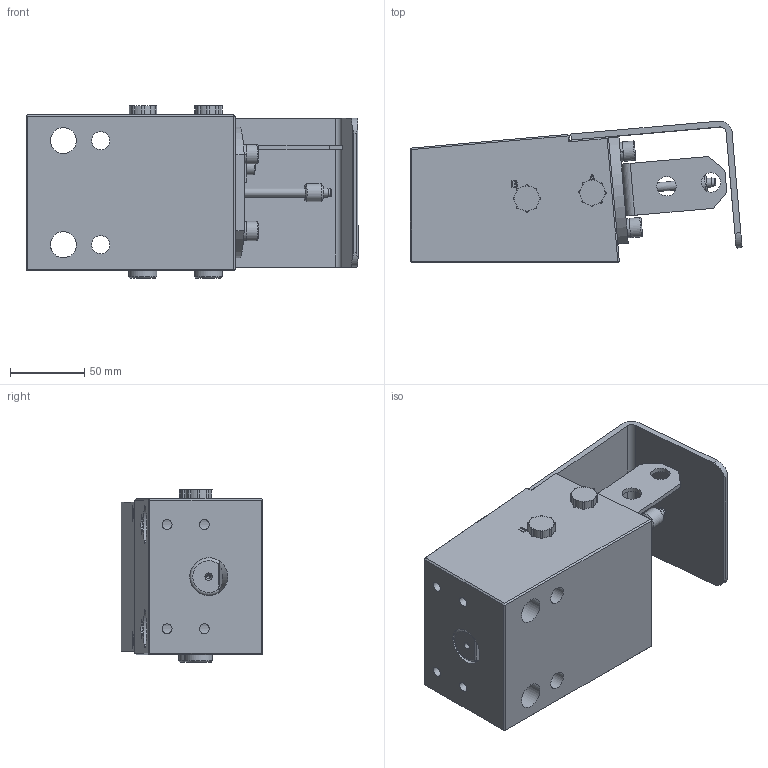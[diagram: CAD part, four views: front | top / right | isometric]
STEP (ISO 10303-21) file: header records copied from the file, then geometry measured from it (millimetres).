
FILE_DESCRIPTION((''),'2;1');
FILE_NAME('\\easAd\Users\breep\Desktop\MOD250-270-RH-250-P-500(M16).stp','2012-07-11T09:11:48',('breep'),(''),'Autodesk Inventor 2011','Autodesk Inventor 2011','');
FILE_SCHEMA(('AUTOMOTIVE_DESIGN { 1 0 10303 214 1 1 1 1 }'));
Length unit declared in the file: millimetre
Products named in the file (1): Part4
Bounding box: 223.12 x 95.17 x 116.1 mm (x, y, z)
Volume: 1171630.2 mm3; surface area: 183828.9 mm2
Topology: 1 solids, 18 shells, 593 faces, 1459 edges, 932 vertices
Faces by surface type: plane 287, cylinder 161, cone 76, bspline 36, torus 31, sphere 2
Full cylindrical faces by diameter (mm): 2.5 x1, 3 x2, 4 x7, 4.134 x2, 4.3 x1, 4.917 x5, 5 x2, 5.5 x1, 6 x10, 6.02 x1, 6.1 x1, 6.2 x3, 6.647 x8, 7 x2, 8 x4, 8.75 x1, 9 x6, 10 x4, 10.03 x1, 10.8 x1, 11.2 x2, 11.445 x5, 11.6 x2, 12 x1, 12.1 x2, 13 x8, 16.4 x2, 16.8 x2, 17.5 x2, 18.8 x2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
Entity records: 17049 total; most frequent: CARTESIAN_POINT 4148, DIRECTION 2498, ORIENTED_EDGE 2266, EDGE_CURVE 1133, AXIS2_PLACEMENT_3D 985, EDGE_LOOP 886, VERTEX_POINT 821, FACE_OUTER_BOUND 593
